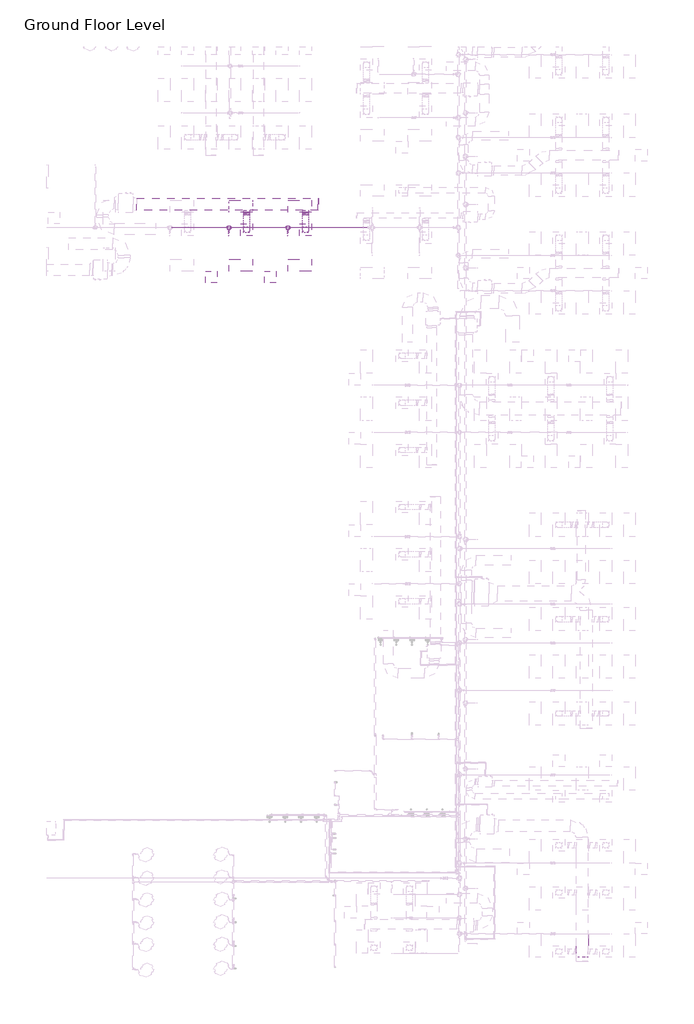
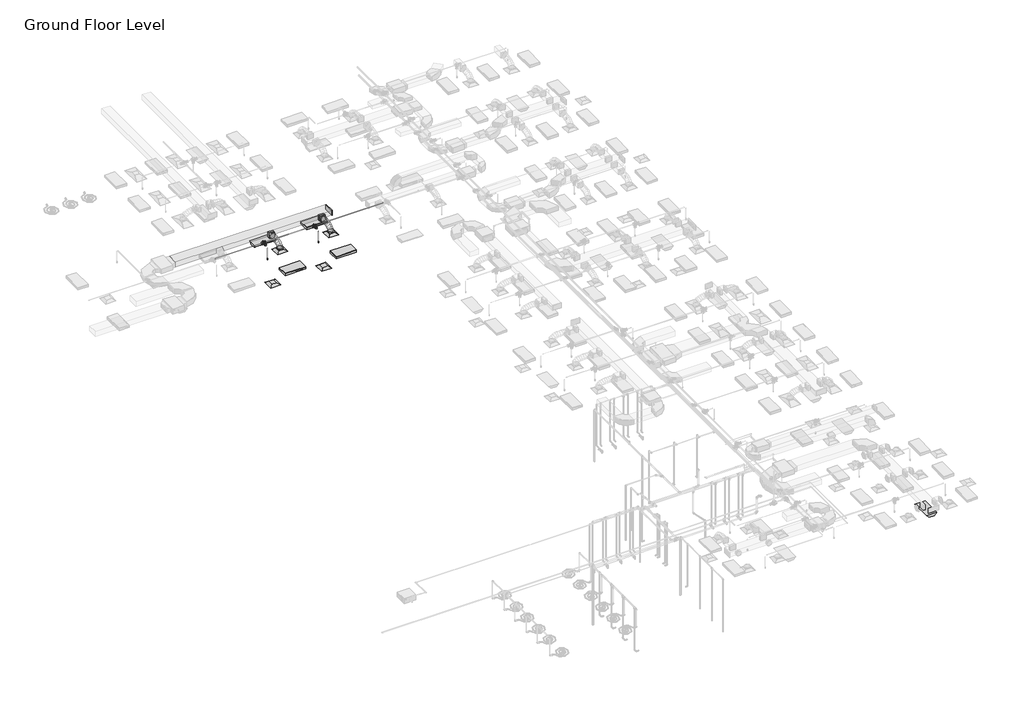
# One storey, part 12 of 66: 7 duct fittings, 7 pipe segments, 5 duct segments, 5 light fixtures, 4 air terminals, 4 pipe fittings, 2 fire suppression terminals.
"""IFC4 building model written with IfcOpenShell, lengths in millimetres."""

from ifc_helpers import new_model, si_unit, point, frame, frame_2d, origin, place, context, project, spatial, polyline, circle_curve, ellipse_curve, trimmed, segment, composite_curve, outline, extrude, transform, mapped, element, save
from ifc_brep_helpers import plane_surface, cylinder_surface, advanced_brep
from components import m_return_diffuser_600_x_600_face_300_x_300_connection_ff221211, m_rectangular_endcap_standard_0f0ff112, m_rectangular_takeoff_standard_2be5eba1, m_rectangular_to_round_transition_angle_45_degree_641efff0, m_sprinkler_dry_pendent_hosted_15_mm_dry_pendent_9bda8e11, m_emergency_recessed_lighting_fixture_600x1200_277_5b10b25d, m_troffer_light_parabolic_rectangular1_0600x1200mm_4_lamp_86473d4a, m_reducer_flanged_cs_class_150_standard_678fb8eb, m_tee_round_base_flanged_cs_class_150_standard_9c9133d0

model = new_model("IFC4")

# Units and contexts
model_context = context("Model", 3, world=origin())
ifc_project = project(units=[si_unit("LENGTHUNIT", "METRE", prefix="MILLI")], contexts=[model_context])

# Site, building, storey
site = spatial("IfcSite", under=ifc_project)
building = spatial("IfcBuilding", under=site)
storey = spatial("IfcBuildingStorey", under=building, Name="Ground Floor Level", Elevation=900.0)

# Air terminals
placement = place(None, origin())
m_return_diffuser_600_x_600_face_300_x_300_connection_shape = m_return_diffuser_600_x_600_face_300_x_300_connection_ff221211(model_context)
element("IfcAirTerminal", 1, ObjectType="M_Return Diffuser : 600 x 600 Face 300 x 300 Connection", at=placement, inside=storey, context=model_context, shape_type="MappedRepresentation", body=[
    mapped(m_return_diffuser_600_x_600_face_300_x_300_connection_shape, transform((-6937.2327605, -5464.7846466, 3650.0), x_axis=(1.0, 0.0, 0.0), y_axis=(0.0, 1.0, 0.0), z_axis=(0.0, 0.0, 1.0))),
])
element("IfcAirTerminal", 2, ObjectType="M_Return Diffuser : 600 x 600 Face 300 x 300 Connection", at=placement, inside=storey, context=model_context, shape_type="MappedRepresentation", body=[
    mapped(m_return_diffuser_600_x_600_face_300_x_300_connection_shape, transform((-3937.2327605, -5464.7846466, 3650.0), x_axis=(1.0, 0.0, 0.0), y_axis=(0.0, 1.0, 0.0), z_axis=(0.0, 0.0, 1.0))),
])
element("IfcAirTerminal", 3, ObjectType="M_Supply Diffuser : 600 x 600 Face 300 x 300 Connection", at=placement, inside=storey, context=model_context, shape_type="MappedRepresentation", body=[
    mapped(m_return_diffuser_600_x_600_face_300_x_300_connection_shape, transform((-5137.2327605, -3064.7846466, 3650.0), x_axis=(1.0, 0.0, 0.0), y_axis=(0.0, 1.0, 0.0), z_axis=(0.0, 0.0, 1.0))),
])
element("IfcAirTerminal", 4, ObjectType="M_Supply Diffuser : 600 x 600 Face 300 x 300 Connection", at=placement, inside=storey, context=model_context, shape_type="MappedRepresentation", body=[
    mapped(m_return_diffuser_600_x_600_face_300_x_300_connection_shape, transform((-2137.2327605, -3064.7846466, 3650.0), x_axis=(1.0, 0.0, 0.0), y_axis=(0.0, 1.0, 0.0), z_axis=(0.0, 0.0, 1.0))),
])

# Duct fittings
m_rectangular_endcap_standard_shape = m_rectangular_endcap_standard_0f0ff112(model_context)
element("IfcDuctFitting", 5, ObjectType="M_Rectangular Endcap : Standard", at=placement, inside=storey, context=model_context, shape_type="MappedRepresentation", body=[
    mapped(m_rectangular_endcap_standard_shape, transform((-1501.8327605, -1768.2846466, 4099.9873731), x_axis=(0.9999999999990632, 0.0, -1.368824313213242e-06), y_axis=(0.0, 1.0, 0.0), z_axis=(1.368824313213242e-06, 0.0, 0.9999999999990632))),
])
m_rectangular_takeoff_standard_shape = m_rectangular_takeoff_standard_2be5eba1(model_context)
element("IfcDuctFitting", 6, ObjectType="M_Rectangular Takeoff : Standard", at=placement, inside=storey, context=model_context, shape_type="MappedRepresentation", body=[
    mapped(m_rectangular_takeoff_standard_shape, transform((-2137.2327605, -2068.2846466, 4099.9882429), x_axis=(0.0, -1.0, 0.0), y_axis=(-1.0, 0.0, 0.0), z_axis=(0.0, 0.0, -1.0))),
])
element("IfcDuctFitting", 7, ObjectType="M_Rectangular Takeoff : Standard", at=placement, inside=storey, context=model_context, shape_type="MappedRepresentation", body=[
    mapped(m_rectangular_takeoff_standard_shape, transform((-5137.2327605, -2068.2846466, 4099.9923494), x_axis=(0.0, -1.0, 0.0), y_axis=(-1.0, 0.0, 0.0), z_axis=(0.0, 0.0, -1.0))),
])
m_rectangular_to_round_transition_angle_45_degree_shape = m_rectangular_to_round_transition_angle_45_degree_641efff0(model_context)
element("IfcDuctFitting", 8, ObjectType="M_Rectangular to Round Transition - Angle : 45 Degree", at=placement, inside=storey, context=model_context, shape_type="MappedRepresentation", body=[
    mapped(m_rectangular_to_round_transition_angle_45_degree_shape, transform((-2137.2327605, -3064.7846466, 3751.6), x_axis=(0.0, 0.0, 1.0), y_axis=(-1.0, 0.0, 0.0), z_axis=(0.0, -1.0, 0.0))),
])
element("IfcDuctFitting", 9, ObjectType="M_Rectangular to Round Transition - Angle : 45 Degree", at=placement, inside=storey, context=model_context, shape_type="MappedRepresentation", body=[
    mapped(m_rectangular_to_round_transition_angle_45_degree_shape, transform((-2137.2327605, -2237.4369582, 4099.9882429), x_axis=(0.0, -1.0, 0.0), y_axis=(1.0, 0.0, 0.0), z_axis=(0.0, 0.0, 1.0))),
])
element("IfcDuctFitting", 10, ObjectType="M_Rectangular to Round Transition - Angle : 45 Degree", at=placement, inside=storey, context=model_context, shape_type="MappedRepresentation", body=[
    mapped(m_rectangular_to_round_transition_angle_45_degree_shape, transform((-5137.2327605, -3064.7846466, 3751.6), x_axis=(0.0, 0.0, 1.0), y_axis=(-1.0, 0.0, 0.0), z_axis=(0.0, -1.0, 0.0))),
])
element("IfcDuctFitting", 11, ObjectType="M_Rectangular to Round Transition - Angle : 45 Degree", at=placement, inside=storey, context=model_context, shape_type="MappedRepresentation", body=[
    mapped(m_rectangular_to_round_transition_angle_45_degree_shape, transform((-5137.2327605, -2237.4410647, 4099.9923494), x_axis=(0.0, -1.0, 0.0), y_axis=(1.0, 0.0, 0.0), z_axis=(0.0, 0.0, 1.0))),
])

# Duct segments
element("IfcDuctSegment", 12, ObjectType="Flex - Round", at=placement, inside=storey, context=model_context, shape_type="AdvancedBrep", body=[
    advanced_brep(
    [(-1987.2327605, -3064.7846466, 3826.6), (-2137.2327605, -3214.7846466, 3826.6), (-2287.2327605, -3064.7846466, 3826.6), (-2137.2327605, -2914.7846466, 3826.6), (-1987.2327605, -3064.7846466, 3857.9382049), (-2137.2327605, -3214.7846466, 3883.5820304), (-2287.2327605, -3064.7846466, 3857.9382049), (-2137.2327605, -2914.7846466, 3832.2943795), (-1987.2327605, -3047.768388, 3906.2507872), (-2137.2327605, -3181.5056265, 3978.0678652), (-2287.2327605, -3047.768388, 3906.2507872), (-2137.2327605, -2914.0311496, 3834.4337093), (-1987.2327605, -3000.5836201, 3968.710775), (-2137.2327605, -3104.787507, 4079.622096), (-2287.2327605, -3000.5836201, 3968.710775), (-2137.2327605, -2896.3797333, 3857.7994541), (-1987.2327605, -2929.0263545, 4016.0680579), (-2137.2327605, -2997.957239, 4150.3233892), (-2287.2327605, -2929.0263545, 4016.0680579), (-2137.2327605, -2860.09547, 3881.8127266), (-1987.2327605, -2838.8926027, 4050.4107303), (-2137.2327605, -2882.4498996, 4194.3338808), (-2287.2327605, -2838.8926027, 4050.4107303), (-2137.2327605, -2795.3353058, 3906.4875799), (-1987.2327605, -2735.9783764, 4073.8268868), (-2137.2327605, -2762.5360145, 4221.6179832), (-2287.2327605, -2735.9783764, 4073.8268868), (-2137.2327605, -2709.4207382, 3926.0357904), (-1987.2327605, -2626.0796872, 4088.4046218), (-2137.2327605, -2641.2277335, 4237.7091667), (-2287.2327605, -2626.0796872, 4088.4046218), (-2137.2327605, -2610.9316408, 3939.1000769), (-1987.2327605, -2514.9925467, 4096.2320299), (-2137.2327605, -2522.4956529, 4246.0752516), (-2287.2327605, -2514.9925467, 4096.2320299), (-2137.2327605, -2507.4894404, 3946.3888082), (-1987.2327605, -2408.5129665, 4099.3972054), (-2137.2327605, -2411.2031539, 4249.3834943), (-2287.2327605, -2408.5129665, 4099.3972054), (-2137.2327605, -2405.822779, 3949.4109165), (-1987.2327605, -2312.4369582, 4099.9882429), (-2137.2327605, -2311.5142102, 3949.9910811), (-2287.2327605, -2312.4369582, 4099.9882429), (-2137.2327605, -2313.3597063, 4249.9854047)],
    [
        (0, 1, circle_curve(frame((-2137.2327605, -3064.7846466, 3826.6), z_axis=(0.0, 0.0, -1.0), x_axis=(1.0, 0.0, 0.0)), 150.0)),
        (1, 2, circle_curve(frame((-2137.2327605, -3064.7846466, 3826.6), z_axis=(0.0, 0.0, -1.0), x_axis=(1.0, 0.0, 0.0)), 150.0)),
        (2, 3, circle_curve(frame((-2137.2327605, -3064.7846466, 3826.6), z_axis=(0.0, 0.0, -1.0), x_axis=(1.0, 0.0, 0.0)), 150.0)),
        (3, 0, circle_curve(frame((-2137.2327605, -3064.7846466, 3826.6), z_axis=(0.0, 0.0, -1.0), x_axis=(1.0, 0.0, 0.0)), 150.0)),
        (0, 4),
        (4, 5, ellipse_curve(frame((-2137.2327605, -3064.7846466, 3857.9382049), z_axis=(0.0, -0.1685139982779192, -0.9856992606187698), x_axis=(0.0, 0.9856992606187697, -0.1685139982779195)), 152.1762326, 150.0)),
        (5, 1),
        (5, 6, ellipse_curve(frame((-2137.2327605, -3064.7846466, 3857.9382049), z_axis=(0.0, -0.1685139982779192, -0.9856992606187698), x_axis=(0.0, 0.9856992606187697, -0.1685139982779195)), 152.1762326, 150.0)),
        (6, 2),
        (6, 7, ellipse_curve(frame((-2137.2327605, -3064.7846466, 3857.9382049), z_axis=(0.0, -0.1685139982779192, -0.9856992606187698), x_axis=(0.0, 0.9856992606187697, -0.1685139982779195)), 152.1762326, 150.0)),
        (7, 3),
        (7, 4, ellipse_curve(frame((-2137.2327605, -3064.7846466, 3857.9382049), z_axis=(0.0, -0.1685139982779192, -0.9856992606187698), x_axis=(0.0, 0.9856992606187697, -0.1685139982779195)), 152.1762326, 150.0)),
        (4, 8),
        (8, 9, ellipse_curve(frame((-2137.2327605, -3047.768388, 3906.2507872), z_axis=(0.0, -0.4731022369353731, -0.8810075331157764), x_axis=(0.0, 0.8810075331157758, -0.47310223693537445)), 151.8003348, 150.0)),
        (9, 5),
        (9, 10, ellipse_curve(frame((-2137.2327605, -3047.768388, 3906.2507872), z_axis=(0.0, -0.4731022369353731, -0.8810075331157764), x_axis=(0.0, 0.8810075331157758, -0.47310223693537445)), 151.8003348, 150.0)),
        (10, 6),
        (10, 11, ellipse_curve(frame((-2137.2327605, -3047.768388, 3906.2507872), z_axis=(0.0, -0.4731022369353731, -0.8810075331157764), x_axis=(0.0, 0.8810075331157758, -0.47310223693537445)), 151.8003348, 150.0)),
        (11, 7),
        (11, 8, ellipse_curve(frame((-2137.2327605, -3047.768388, 3906.2507872), z_axis=(0.0, -0.4731022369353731, -0.8810075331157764), x_axis=(0.0, 0.8810075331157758, -0.47310223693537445)), 151.8003348, 150.0)),
        (8, 12),
        (12, 13, ellipse_curve(frame((-2137.2327605, -3000.5836201, 3968.710775), z_axis=(0.0, -0.728800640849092, -0.6847259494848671), x_axis=(0.0, 0.6847259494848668, -0.7288006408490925)), 152.1833472, 150.0)),
        (13, 9),
        (13, 14, ellipse_curve(frame((-2137.2327605, -3000.5836201, 3968.710775), z_axis=(0.0, -0.728800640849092, -0.6847259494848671), x_axis=(0.0, 0.6847259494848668, -0.7288006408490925)), 152.1833472, 150.0)),
        (14, 10),
        (14, 15, ellipse_curve(frame((-2137.2327605, -3000.5836201, 3968.710775), z_axis=(0.0, -0.728800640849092, -0.6847259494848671), x_axis=(0.0, 0.6847259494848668, -0.7288006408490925)), 152.1833472, 150.0)),
        (15, 11),
        (15, 12, ellipse_curve(frame((-2137.2327605, -3000.5836201, 3968.710775), z_axis=(0.0, -0.728800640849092, -0.6847259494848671), x_axis=(0.0, 0.6847259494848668, -0.7288006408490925)), 152.1833472, 150.0)),
        (12, 16),
        (16, 17, ellipse_curve(frame((-2137.2327605, -2929.0263545, 4016.0680579), z_axis=(0.0, -0.8895967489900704, -0.456746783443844), x_axis=(0.0, 0.45674678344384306, -0.8895967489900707)), 150.917066, 150.0)),
        (17, 13),
        (17, 18, ellipse_curve(frame((-2137.2327605, -2929.0263545, 4016.0680579), z_axis=(0.0, -0.8895967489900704, -0.456746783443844), x_axis=(0.0, 0.45674678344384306, -0.8895967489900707)), 150.917066, 150.0)),
        (18, 14),
        (18, 19, ellipse_curve(frame((-2137.2327605, -2929.0263545, 4016.0680579), z_axis=(0.0, -0.8895967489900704, -0.456746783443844), x_axis=(0.0, 0.45674678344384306, -0.8895967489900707)), 150.917066, 150.0)),
        (19, 15),
        (19, 16, ellipse_curve(frame((-2137.2327605, -2929.0263545, 4016.0680579), z_axis=(0.0, -0.8895967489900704, -0.456746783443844), x_axis=(0.0, 0.45674678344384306, -0.8895967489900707)), 150.917066, 150.0)),
        (16, 20),
        (20, 21, ellipse_curve(frame((-2137.2327605, -2838.8926027, 4050.4107303), z_axis=(0.0, -0.9571272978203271, -0.2896676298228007), x_axis=(0.0, 0.28966762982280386, -0.957127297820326)), 150.369915, 150.0)),
        (21, 17),
        (21, 22, ellipse_curve(frame((-2137.2327605, -2838.8926027, 4050.4107303), z_axis=(0.0, -0.9571272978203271, -0.2896676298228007), x_axis=(0.0, 0.28966762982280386, -0.957127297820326)), 150.369915, 150.0)),
        (22, 18),
        (22, 23, ellipse_curve(frame((-2137.2327605, -2838.8926027, 4050.4107303), z_axis=(0.0, -0.9571272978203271, -0.2896676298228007), x_axis=(0.0, 0.28966762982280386, -0.957127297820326)), 150.369915, 150.0)),
        (23, 19),
        (23, 20, ellipse_curve(frame((-2137.2327605, -2838.8926027, 4050.4107303), z_axis=(0.0, -0.9571272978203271, -0.2896676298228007), x_axis=(0.0, 0.28966762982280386, -0.957127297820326)), 150.369915, 150.0)),
        (20, 24),
        (24, 25, ellipse_curve(frame((-2137.2327605, -2735.9783764, 4073.8268868), z_axis=(0.0, -0.9842352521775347, -0.1768642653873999), x_axis=(0.0, 0.1768642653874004, -0.9842352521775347)), 150.1583042, 150.0)),
        (25, 21),
        (25, 26, ellipse_curve(frame((-2137.2327605, -2735.9783764, 4073.8268868), z_axis=(0.0, -0.9842352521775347, -0.1768642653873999), x_axis=(0.0, 0.1768642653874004, -0.9842352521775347)), 150.1583042, 150.0)),
        (26, 22),
        (26, 27, ellipse_curve(frame((-2137.2327605, -2735.9783764, 4073.8268868), z_axis=(0.0, -0.9842352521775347, -0.1768642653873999), x_axis=(0.0, 0.1768642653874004, -0.9842352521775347)), 150.1583042, 150.0)),
        (27, 23),
        (27, 24, ellipse_curve(frame((-2137.2327605, -2735.9783764, 4073.8268868), z_axis=(0.0, -0.9842352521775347, -0.1768642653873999), x_axis=(0.0, 0.1768642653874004, -0.9842352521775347)), 150.1583042, 150.0)),
        (24, 28),
        (28, 29, ellipse_curve(frame((-2137.2327605, -2626.0796872, 4088.4046218), z_axis=(0.0, -0.9948925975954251, -0.10093918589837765), x_axis=(0.0, 0.10093918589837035, -0.9948925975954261)), 150.071018, 150.0)),
        (29, 25),
        (29, 30, ellipse_curve(frame((-2137.2327605, -2626.0796872, 4088.4046218), z_axis=(0.0, -0.9948925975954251, -0.10093918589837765), x_axis=(0.0, 0.10093918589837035, -0.9948925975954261)), 150.071018, 150.0)),
        (30, 26),
        (30, 31, ellipse_curve(frame((-2137.2327605, -2626.0796872, 4088.4046218), z_axis=(0.0, -0.9948925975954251, -0.10093918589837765), x_axis=(0.0, 0.10093918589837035, -0.9948925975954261)), 150.071018, 150.0)),
        (31, 27),
        (31, 28, ellipse_curve(frame((-2137.2327605, -2626.0796872, 4088.4046218), z_axis=(0.0, -0.9948925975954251, -0.10093918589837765), x_axis=(0.0, 0.10093918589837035, -0.9948925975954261)), 150.071018, 150.0)),
        (28, 32),
        (32, 33, ellipse_curve(frame((-2137.2327605, -2514.9925467, 4096.2320299), z_axis=(0.0, -0.9987486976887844, -0.050010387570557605), x_axis=(0.0, 0.05001038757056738, -0.9987486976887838)), 150.0309558, 150.0)),
        (33, 29),
        (33, 34, ellipse_curve(frame((-2137.2327605, -2514.9925467, 4096.2320299), z_axis=(0.0, -0.9987486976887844, -0.050010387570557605), x_axis=(0.0, 0.05001038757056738, -0.9987486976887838)), 150.0309558, 150.0)),
        (34, 30),
        (34, 35, ellipse_curve(frame((-2137.2327605, -2514.9925467, 4096.2320299), z_axis=(0.0, -0.9987486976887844, -0.050010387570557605), x_axis=(0.0, 0.05001038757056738, -0.9987486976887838)), 150.0309558, 150.0)),
        (35, 31),
        (35, 32, ellipse_curve(frame((-2137.2327605, -2514.9925467, 4096.2320299), z_axis=(0.0, -0.9987486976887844, -0.050010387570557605), x_axis=(0.0, 0.05001038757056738, -0.9987486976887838)), 150.0309558, 150.0)),
        (32, 36),
        (36, 37, ellipse_curve(frame((-2137.2327605, -2408.5129665, 4099.3972054), z_axis=(0.0, -0.9998391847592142, -0.017933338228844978), x_axis=(0.0, 0.017933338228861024, -0.9998391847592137)), 150.0104128, 150.0)),
        (37, 33),
        (37, 38, ellipse_curve(frame((-2137.2327605, -2408.5129665, 4099.3972054), z_axis=(0.0, -0.9998391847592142, -0.017933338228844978), x_axis=(0.0, 0.017933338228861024, -0.9998391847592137)), 150.0104128, 150.0)),
        (38, 34),
        (38, 39, ellipse_curve(frame((-2137.2327605, -2408.5129665, 4099.3972054), z_axis=(0.0, -0.9998391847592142, -0.017933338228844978), x_axis=(0.0, 0.017933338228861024, -0.9998391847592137)), 150.0104128, 150.0)),
        (39, 35),
        (39, 36, ellipse_curve(frame((-2137.2327605, -2408.5129665, 4099.3972054), z_axis=(0.0, -0.9998391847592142, -0.017933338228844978), x_axis=(0.0, 0.017933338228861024, -0.9998391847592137)), 150.0104128, 150.0)),
        (40, 41, circle_curve(frame((-2137.2327605, -2312.4369582, 4099.9882429), z_axis=(0.0, 0.9999810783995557, 0.006151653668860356), x_axis=(1.0, 0.0, 0.0)), 150.0)),
        (41, 42, circle_curve(frame((-2137.2327605, -2312.4369582, 4099.9882429), z_axis=(0.0, 0.9999810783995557, 0.006151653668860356), x_axis=(1.0, 0.0, 0.0)), 150.0)),
        (42, 43, circle_curve(frame((-2137.2327605, -2312.4369582, 4099.9882429), z_axis=(0.0, 0.9999810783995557, 0.006151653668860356), x_axis=(1.0, 0.0, 0.0)), 150.0)),
        (43, 40, circle_curve(frame((-2137.2327605, -2312.4369582, 4099.9882429), z_axis=(0.0, 0.9999810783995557, 0.006151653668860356), x_axis=(1.0, 0.0, 0.0)), 150.0)),
        (36, 40),
        (43, 37),
        (42, 38),
        (41, 39),
    ],
    [
        plane_surface(frame((-2137.2327605, -3214.7846466, 3826.6), z_axis=(0.0, 0.0, -1.0), x_axis=(1.0, 0.0, 0.0))),
        cylinder_surface(frame((-2137.2327605, -3064.7846466, 3826.6), z_axis=(0.0, 0.0, -1.0), x_axis=(1.0, 0.0, 0.0)), 150.0),
        cylinder_surface(frame((-2137.2327605, -3064.7846466, 3857.9382049), z_axis=(0.0, -0.33220824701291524, -0.9432060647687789), x_axis=(1.0, 0.0, 0.0)), 150.0),
        cylinder_surface(frame((-2137.2327605, -3047.768388, 3906.2507872), z_axis=(0.0, -0.6027743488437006, -0.7979117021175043), x_axis=(1.0, 0.0, 0.0)), 150.0),
        cylinder_surface(frame((-2137.2327605, -3000.5836201, 3968.710775), z_axis=(0.0, -0.83391498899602, -0.5518929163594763), x_axis=(1.0, 0.0, 0.0)), 150.0),
        cylinder_surface(frame((-2137.2327605, -2929.0263545, 4016.0680579), z_axis=(0.0, -0.9344670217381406, -0.3560496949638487), x_axis=(1.0, 0.0, 0.0)), 150.0),
        cylinder_surface(frame((-2137.2327605, -2838.8926027, 4050.4107303), z_axis=(0.0, -0.9750784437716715, -0.2218603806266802), x_axis=(1.0, 0.0, 0.0)), 150.0),
        cylinder_surface(frame((-2137.2327605, -2735.9783764, 4073.8268868), z_axis=(0.0, -0.9913168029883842, -0.13149523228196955), x_axis=(1.0, 0.0, 0.0)), 150.0),
        cylinder_surface(frame((-2137.2327605, -2626.0796872, 4088.4046218), z_axis=(0.0, -0.9975267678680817, -0.07028760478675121), x_axis=(1.0, 0.0, 0.0)), 150.0),
        cylinder_surface(frame((-2137.2327605, -2514.9925467, 4096.2320299), z_axis=(0.0, -0.9995584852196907, -0.02971253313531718), x_axis=(1.0, 0.0, 0.0)), 150.0),
        plane_surface(frame((-2137.2327605, -2313.3597063, 4249.9854047), z_axis=(0.0, 0.9999810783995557, 0.006151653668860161), x_axis=(1.0, 0.0, 0.0))),
        cylinder_surface(frame((-2137.2327605, -2408.5129665, 4099.3972054), z_axis=(0.0, -0.9999810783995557, -0.006151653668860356), x_axis=(1.0, 0.0, 0.0)), 150.0),
    ],
    [
        (0, [[1, 2, 3, 4]]),
        (1, [[-1, 5, 6, 7]]),
        (1, [[-2, -7, 8, 9]]),
        (1, [[-3, -9, 10, 11]]),
        (1, [[-4, -11, 12, -5]]),
        (2, [[-6, 13, 14, 15]]),
        (2, [[-8, -15, 16, 17]]),
        (2, [[-10, -17, 18, 19]]),
        (2, [[-12, -19, 20, -13]]),
        (3, [[-14, 21, 22, 23]]),
        (3, [[-16, -23, 24, 25]]),
        (3, [[-18, -25, 26, 27]]),
        (3, [[-20, -27, 28, -21]]),
        (4, [[-22, 29, 30, 31]]),
        (4, [[-24, -31, 32, 33]]),
        (4, [[-26, -33, 34, 35]]),
        (4, [[-28, -35, 36, -29]]),
        (5, [[-30, 37, 38, 39]]),
        (5, [[-32, -39, 40, 41]]),
        (5, [[-34, -41, 42, 43]]),
        (5, [[-36, -43, 44, -37]]),
        (6, [[-38, 45, 46, 47]]),
        (6, [[-40, -47, 48, 49]]),
        (6, [[-42, -49, 50, 51]]),
        (6, [[-44, -51, 52, -45]]),
        (7, [[-46, 53, 54, 55]]),
        (7, [[-48, -55, 56, 57]]),
        (7, [[-50, -57, 58, 59]]),
        (7, [[-52, -59, 60, -53]]),
        (8, [[-54, 61, 62, 63]]),
        (8, [[-56, -63, 64, 65]]),
        (8, [[-58, -65, 66, 67]]),
        (8, [[-60, -67, 68, -61]]),
        (9, [[-62, 69, 70, 71]]),
        (9, [[-64, -71, 72, 73]]),
        (9, [[-66, -73, 74, 75]]),
        (9, [[-68, -75, 76, -69]]),
        (10, [[77, 78, 79, 80]]),
        (11, [[-70, 81, -80, 82]]),
        (11, [[-72, -82, -79, 83]]),
        (11, [[-74, -83, -78, 84]]),
        (11, [[-76, -84, -77, -81]]),
    ],
),
])
element("IfcDuctSegment", 13, ObjectType="Flex - Round", at=placement, inside=storey, context=model_context, shape_type="AdvancedBrep", body=[
    advanced_brep(
    [(-4987.2327605, -3064.7846466, 3826.6), (-5137.2327605, -3214.7846466, 3826.6), (-5287.2327605, -3064.7846466, 3826.6), (-5137.2327605, -2914.7846466, 3826.6), (-4987.2327605, -3064.7846466, 3857.9380326), (-5137.2327605, -3214.7846466, 3883.5816473), (-5287.2327605, -3064.7846466, 3857.9380326), (-5137.2327605, -2914.7846466, 3832.2944178), (-4987.2327605, -3047.7685019, 3906.2507123), (-5137.2327605, -3181.505999, 3978.0672475), (-5287.2327605, -3047.7685019, 3906.2507123), (-5137.2327605, -2914.0310048, 3834.4341772), (-4987.2327605, -3000.584044, 3968.710963), (-5137.2327605, -3104.7886338, 4079.6215744), (-5287.2327605, -3000.584044, 3968.710963), (-5137.2327605, -2896.3794543, 3857.8003516), (-4987.2327605, -2929.0272371, 4016.0687585), (-5137.2327605, -2997.9592292, 4150.3235149), (-5287.2327605, -2929.0272371, 4016.0687585), (-5137.2327605, -2860.095245, 3881.8140022), (-4987.2327605, -2838.8940455, 4050.4121057), (-5137.2327605, -2882.4525531, 4194.3348919), (-5287.2327605, -2838.8940455, 4050.4121057), (-5137.2327605, -2795.3355379, 3906.4893195), (-4987.2327605, -2735.9804334, 4073.8290112), (-5137.2327605, -2762.5392192, 4221.6199045), (-5287.2327605, -2735.9804334, 4073.8290112), (-5137.2327605, -2709.4216475, 3926.0381179), (-4987.2327605, -2626.082365, 4088.4074817), (-5137.2327605, -2641.2314089, 4237.7119283), (-5287.2327605, -2626.082365, 4088.4074817), (-5137.2327605, -2610.9333211, 3939.103035), (-4987.2327605, -2514.9958046, 4096.2355237), (-5137.2327605, -2522.4996869, 4246.0787092), (-5287.2327605, -2514.9958046, 4096.2355237), (-5137.2327605, -2507.4919223, 3946.3923382), (-4987.2327605, -2408.5167164, 4099.4011441), (-5137.2327605, -2411.2073599, 4249.387427), (-5287.2327605, -2408.5167164, 4099.4011441), (-5137.2327605, -2405.8260729, 3949.4148611), (-4987.2327605, -2312.4410647, 4099.9923494), (-5137.2327605, -2311.5180513, 3949.9951892), (-5287.2327605, -2312.4410647, 4099.9923494), (-5137.2327605, -2313.3640781, 4249.9895095)],
    [
        (0, 1, circle_curve(frame((-5137.2327605, -3064.7846466, 3826.6), z_axis=(0.0, 0.0, -1.0), x_axis=(1.0, 0.0, 0.0)), 150.0)),
        (1, 2, circle_curve(frame((-5137.2327605, -3064.7846466, 3826.6), z_axis=(0.0, 0.0, -1.0), x_axis=(1.0, 0.0, 0.0)), 150.0)),
        (2, 3, circle_curve(frame((-5137.2327605, -3064.7846466, 3826.6), z_axis=(0.0, 0.0, -1.0), x_axis=(1.0, 0.0, 0.0)), 150.0)),
        (3, 0, circle_curve(frame((-5137.2327605, -3064.7846466, 3826.6), z_axis=(0.0, 0.0, -1.0), x_axis=(1.0, 0.0, 0.0)), 150.0)),
        (0, 4),
        (4, 5, ellipse_curve(frame((-5137.2327605, -3064.7846466, 3857.9380326), z_axis=(0.0, -0.16851265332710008, -0.9856994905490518), x_axis=(0.0, 0.9856994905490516, -0.16851265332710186)), 152.1761971, 150.0)),
        (5, 1),
        (5, 6, ellipse_curve(frame((-5137.2327605, -3064.7846466, 3857.9380326), z_axis=(0.0, -0.16851265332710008, -0.9856994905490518), x_axis=(0.0, 0.9856994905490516, -0.16851265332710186)), 152.1761971, 150.0)),
        (6, 2),
        (6, 7, ellipse_curve(frame((-5137.2327605, -3064.7846466, 3857.9380326), z_axis=(0.0, -0.16851265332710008, -0.9856994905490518), x_axis=(0.0, 0.9856994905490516, -0.16851265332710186)), 152.1761971, 150.0)),
        (7, 3),
        (7, 4, ellipse_curve(frame((-5137.2327605, -3064.7846466, 3857.9380326), z_axis=(0.0, -0.16851265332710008, -0.9856994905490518), x_axis=(0.0, 0.9856994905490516, -0.16851265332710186)), 152.1761971, 150.0)),
        (4, 8),
        (8, 9, ellipse_curve(frame((-5137.2327605, -3047.7685019, 3906.2507123), z_axis=(0.0, -0.47309875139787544, -0.881009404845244), x_axis=(0.0, 0.8810094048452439, -0.47309875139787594)), 151.8003058, 150.0)),
        (9, 5),
        (9, 10, ellipse_curve(frame((-5137.2327605, -3047.7685019, 3906.2507123), z_axis=(0.0, -0.47309875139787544, -0.881009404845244), x_axis=(0.0, 0.8810094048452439, -0.47309875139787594)), 151.8003058, 150.0)),
        (10, 6),
        (10, 11, ellipse_curve(frame((-5137.2327605, -3047.7685019, 3906.2507123), z_axis=(0.0, -0.47309875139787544, -0.881009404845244), x_axis=(0.0, 0.8810094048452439, -0.47309875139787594)), 151.8003058, 150.0)),
        (11, 7),
        (11, 8, ellipse_curve(frame((-5137.2327605, -3047.7685019, 3906.2507123), z_axis=(0.0, -0.47309875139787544, -0.881009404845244), x_axis=(0.0, 0.8810094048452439, -0.47309875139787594)), 151.8003058, 150.0)),
        (8, 12),
        (12, 13, ellipse_curve(frame((-5137.2327605, -3000.584044, 3968.710963), z_axis=(0.0, -0.7287961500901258, -0.6847307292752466), x_axis=(0.0, 0.6847307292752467, -0.7287961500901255)), 152.1833113, 150.0)),
        (13, 9),
        (13, 14, ellipse_curve(frame((-5137.2327605, -3000.584044, 3968.710963), z_axis=(0.0, -0.7287961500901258, -0.6847307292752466), x_axis=(0.0, 0.6847307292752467, -0.7287961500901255)), 152.1833113, 150.0)),
        (14, 10),
        (14, 15, ellipse_curve(frame((-5137.2327605, -3000.584044, 3968.710963), z_axis=(0.0, -0.7287961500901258, -0.6847307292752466), x_axis=(0.0, 0.6847307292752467, -0.7287961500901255)), 152.1833113, 150.0)),
        (15, 11),
        (15, 12, ellipse_curve(frame((-5137.2327605, -3000.584044, 3968.710963), z_axis=(0.0, -0.7287961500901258, -0.6847307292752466), x_axis=(0.0, 0.6847307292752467, -0.7287961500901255)), 152.1833113, 150.0)),
        (12, 16),
        (16, 17, ellipse_curve(frame((-5137.2327605, -2929.0272371, 4016.0687585), z_axis=(0.0, -0.8895929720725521, -0.4567541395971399), x_axis=(0.0, 0.45675413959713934, -0.8895929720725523)), 150.9170604, 150.0)),
        (17, 13),
        (17, 18, ellipse_curve(frame((-5137.2327605, -2929.0272371, 4016.0687585), z_axis=(0.0, -0.8895929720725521, -0.4567541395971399), x_axis=(0.0, 0.45675413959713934, -0.8895929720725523)), 150.9170604, 150.0)),
        (18, 14),
        (18, 19, ellipse_curve(frame((-5137.2327605, -2929.0272371, 4016.0687585), z_axis=(0.0, -0.8895929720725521, -0.4567541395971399), x_axis=(0.0, 0.45675413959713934, -0.8895929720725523)), 150.9170604, 150.0)),
        (19, 15),
        (19, 16, ellipse_curve(frame((-5137.2327605, -2929.0272371, 4016.0687585), z_axis=(0.0, -0.8895929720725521, -0.4567541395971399), x_axis=(0.0, 0.45675413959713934, -0.8895929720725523)), 150.9170604, 150.0)),
        (16, 20),
        (20, 21, ellipse_curve(frame((-5137.2327605, -2838.8940455, 4050.4121057), z_axis=(0.0, -0.9571248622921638, -0.2896756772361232), x_axis=(0.0, 0.28967567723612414, -0.9571248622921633)), 150.3699171, 150.0)),
        (21, 17),
        (21, 22, ellipse_curve(frame((-5137.2327605, -2838.8940455, 4050.4121057), z_axis=(0.0, -0.9571248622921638, -0.2896756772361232), x_axis=(0.0, 0.28967567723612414, -0.9571248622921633)), 150.3699171, 150.0)),
        (22, 18),
        (22, 23, ellipse_curve(frame((-5137.2327605, -2838.8940455, 4050.4121057), z_axis=(0.0, -0.9571248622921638, -0.2896756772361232), x_axis=(0.0, 0.28967567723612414, -0.9571248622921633)), 150.3699171, 150.0)),
        (23, 19),
        (23, 20, ellipse_curve(frame((-5137.2327605, -2838.8940455, 4050.4121057), z_axis=(0.0, -0.9571248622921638, -0.2896756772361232), x_axis=(0.0, 0.28967567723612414, -0.9571248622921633)), 150.3699171, 150.0)),
        (20, 24),
        (24, 25, ellipse_curve(frame((-5137.2327605, -2735.9804334, 4073.8290112), z_axis=(0.0, -0.984233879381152, -0.17687190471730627), x_axis=(0.0, 0.17687190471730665, -0.984233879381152)), 150.1583073, 150.0)),
        (25, 21),
        (25, 26, ellipse_curve(frame((-5137.2327605, -2735.9804334, 4073.8290112), z_axis=(0.0, -0.984233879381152, -0.17687190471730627), x_axis=(0.0, 0.17687190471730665, -0.984233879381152)), 150.1583073, 150.0)),
        (26, 22),
        (26, 27, ellipse_curve(frame((-5137.2327605, -2735.9804334, 4073.8290112), z_axis=(0.0, -0.984233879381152, -0.17687190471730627), x_axis=(0.0, 0.17687190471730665, -0.984233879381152)), 150.1583073, 150.0)),
        (27, 23),
        (27, 24, ellipse_curve(frame((-5137.2327605, -2735.9804334, 4073.8290112), z_axis=(0.0, -0.984233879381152, -0.17687190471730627), x_axis=(0.0, 0.17687190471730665, -0.984233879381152)), 150.1583073, 150.0)),
        (24, 28),
        (28, 29, ellipse_curve(frame((-5137.2327605, -2626.082365, 4088.4074817), z_axis=(0.0, -0.9948919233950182, -0.1009458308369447), x_axis=(0.0, 0.10094583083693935, -0.9948919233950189)), 150.0710209, 150.0)),
        (29, 25),
        (29, 30, ellipse_curve(frame((-5137.2327605, -2626.082365, 4088.4074817), z_axis=(0.0, -0.9948919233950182, -0.1009458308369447), x_axis=(0.0, 0.10094583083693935, -0.9948919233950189)), 150.0710209, 150.0)),
        (30, 26),
        (30, 31, ellipse_curve(frame((-5137.2327605, -2626.082365, 4088.4074817), z_axis=(0.0, -0.9948919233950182, -0.1009458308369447), x_axis=(0.0, 0.10094583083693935, -0.9948919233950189)), 150.0710209, 150.0)),
        (31, 27),
        (31, 28, ellipse_curve(frame((-5137.2327605, -2626.082365, 4088.4074817), z_axis=(0.0, -0.9948919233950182, -0.1009458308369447), x_axis=(0.0, 0.10094583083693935, -0.9948919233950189)), 150.0710209, 150.0)),
        (28, 32),
        (32, 33, ellipse_curve(frame((-5137.2327605, -2514.9958046, 4096.2355237), z_axis=(0.0, -0.9987484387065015, -0.05001555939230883), x_axis=(0.0, 0.05001555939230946, -0.9987484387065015)), 150.0309584, 150.0)),
        (33, 29),
        (33, 34, ellipse_curve(frame((-5137.2327605, -2514.9958046, 4096.2355237), z_axis=(0.0, -0.9987484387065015, -0.05001555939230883), x_axis=(0.0, 0.05001555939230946, -0.9987484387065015)), 150.0309584, 150.0)),
        (34, 30),
        (34, 35, ellipse_curve(frame((-5137.2327605, -2514.9958046, 4096.2355237), z_axis=(0.0, -0.9987484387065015, -0.05001555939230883), x_axis=(0.0, 0.05001555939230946, -0.9987484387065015)), 150.0309584, 150.0)),
        (35, 31),
        (35, 32, ellipse_curve(frame((-5137.2327605, -2514.9958046, 4096.2355237), z_axis=(0.0, -0.9987484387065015, -0.05001555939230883), x_axis=(0.0, 0.05001555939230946, -0.9987484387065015)), 150.0309584, 150.0)),
        (32, 36),
        (36, 37, ellipse_curve(frame((-5137.2327605, -2408.5167164, 4099.4011441), z_axis=(0.0, -0.9998391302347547, -0.01793637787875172), x_axis=(0.0, 0.017936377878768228, -0.9998391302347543)), 150.0104151, 150.0)),
        (37, 33),
        (37, 38, ellipse_curve(frame((-5137.2327605, -2408.5167164, 4099.4011441), z_axis=(0.0, -0.9998391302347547, -0.01793637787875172), x_axis=(0.0, 0.017936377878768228, -0.9998391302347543)), 150.0104151, 150.0)),
        (38, 34),
        (38, 39, ellipse_curve(frame((-5137.2327605, -2408.5167164, 4099.4011441), z_axis=(0.0, -0.9998391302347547, -0.01793637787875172), x_axis=(0.0, 0.017936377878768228, -0.9998391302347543)), 150.0104151, 150.0)),
        (39, 35),
        (39, 36, ellipse_curve(frame((-5137.2327605, -2408.5167164, 4099.4011441), z_axis=(0.0, -0.9998391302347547, -0.01793637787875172), x_axis=(0.0, 0.017936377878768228, -0.9998391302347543)), 150.0104151, 150.0)),
        (40, 41, circle_curve(frame((-5137.2327605, -2312.4410647, 4099.9923494), z_axis=(0.0, 0.9999810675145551, 0.0061534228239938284), x_axis=(1.0, 0.0, 0.0)), 150.0)),
        (41, 42, circle_curve(frame((-5137.2327605, -2312.4410647, 4099.9923494), z_axis=(0.0, 0.9999810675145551, 0.0061534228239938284), x_axis=(1.0, 0.0, 0.0)), 150.0)),
        (42, 43, circle_curve(frame((-5137.2327605, -2312.4410647, 4099.9923494), z_axis=(0.0, 0.9999810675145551, 0.0061534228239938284), x_axis=(1.0, 0.0, 0.0)), 150.0)),
        (43, 40, circle_curve(frame((-5137.2327605, -2312.4410647, 4099.9923494), z_axis=(0.0, 0.9999810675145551, 0.0061534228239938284), x_axis=(1.0, 0.0, 0.0)), 150.0)),
        (36, 40),
        (43, 37),
        (42, 38),
        (41, 39),
    ],
    [
        plane_surface(frame((-5137.2327605, -3214.7846466, 3826.6), z_axis=(0.0, 0.0, -1.0), x_axis=(1.0, 0.0, 0.0))),
        cylinder_surface(frame((-5137.2327605, -3064.7846466, 3826.6), z_axis=(0.0, 0.0, -1.0), x_axis=(1.0, 0.0, 0.0)), 150.0),
        cylinder_surface(frame((-5137.2327605, -3064.7846466, 3857.9380326), z_axis=(0.0, -0.33220567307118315, -0.9432069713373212), x_axis=(1.0, 0.0, 0.0)), 150.0),
        cylinder_surface(frame((-5137.2327605, -3047.7685019, 3906.2507123), z_axis=(0.0, -0.6027702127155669, -0.797914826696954), x_axis=(1.0, 0.0, 0.0)), 150.0),
        cylinder_surface(frame((-5137.2327605, -3000.584044, 3968.710963), z_axis=(0.0, -0.8339106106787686, -0.5518995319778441), x_axis=(1.0, 0.0, 0.0)), 150.0),
        cylinder_surface(frame((-5137.2327605, -2929.0272371, 4016.0687585), z_axis=(0.0, -0.9344639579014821, -0.3560577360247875), x_axis=(1.0, 0.0, 0.0)), 150.0),
        cylinder_surface(frame((-5137.2327605, -2838.8940455, 4050.4121057), z_axis=(0.0, -0.9750766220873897, -0.22186838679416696), x_axis=(1.0, 0.0, 0.0)), 150.0),
        cylinder_surface(frame((-5137.2327605, -2735.9804334, 4073.8290112), z_axis=(0.0, -0.9913158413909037, -0.13150248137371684), x_axis=(1.0, 0.0, 0.0)), 150.0),
        cylinder_surface(frame((-5137.2327605, -2626.082365, 4088.4074817), z_axis=(0.0, -0.9975263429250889, -0.07029363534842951), x_axis=(1.0, 0.0, 0.0)), 150.0),
        cylinder_surface(frame((-5137.2327605, -2514.9958046, 4096.2355237), z_axis=(0.0, -0.9995583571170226, -0.029716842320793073), x_axis=(1.0, 0.0, 0.0)), 150.0),
        plane_surface(frame((-5137.2327605, -2313.3640781, 4249.9895095), z_axis=(0.0, 0.9999810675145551, 0.006153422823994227), x_axis=(1.0, 0.0, 0.0))),
        cylinder_surface(frame((-5137.2327605, -2408.5167164, 4099.4011441), z_axis=(0.0, -0.9999810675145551, -0.0061534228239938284), x_axis=(1.0, 0.0, 0.0)), 150.0),
    ],
    [
        (0, [[1, 2, 3, 4]]),
        (1, [[-1, 5, 6, 7]]),
        (1, [[-2, -7, 8, 9]]),
        (1, [[-3, -9, 10, 11]]),
        (1, [[-4, -11, 12, -5]]),
        (2, [[-6, 13, 14, 15]]),
        (2, [[-8, -15, 16, 17]]),
        (2, [[-10, -17, 18, 19]]),
        (2, [[-12, -19, 20, -13]]),
        (3, [[-14, 21, 22, 23]]),
        (3, [[-16, -23, 24, 25]]),
        (3, [[-18, -25, 26, 27]]),
        (3, [[-20, -27, 28, -21]]),
        (4, [[-22, 29, 30, 31]]),
        (4, [[-24, -31, 32, 33]]),
        (4, [[-26, -33, 34, 35]]),
        (4, [[-28, -35, 36, -29]]),
        (5, [[-30, 37, 38, 39]]),
        (5, [[-32, -39, 40, 41]]),
        (5, [[-34, -41, 42, 43]]),
        (5, [[-36, -43, 44, -37]]),
        (6, [[-38, 45, 46, 47]]),
        (6, [[-40, -47, 48, 49]]),
        (6, [[-42, -49, 50, 51]]),
        (6, [[-44, -51, 52, -45]]),
        (7, [[-46, 53, 54, 55]]),
        (7, [[-48, -55, 56, 57]]),
        (7, [[-50, -57, 58, 59]]),
        (7, [[-52, -59, 60, -53]]),
        (8, [[-54, 61, 62, 63]]),
        (8, [[-56, -63, 64, 65]]),
        (8, [[-58, -65, 66, 67]]),
        (8, [[-60, -67, 68, -61]]),
        (9, [[-62, 69, 70, 71]]),
        (9, [[-64, -71, 72, 73]]),
        (9, [[-66, -73, 74, 75]]),
        (9, [[-68, -75, 76, -69]]),
        (10, [[77, 78, 79, 80]]),
        (11, [[-70, 81, -80, 82]]),
        (11, [[-72, -82, -79, 83]]),
        (11, [[-74, -83, -78, 84]]),
        (11, [[-76, -84, -77, -81]]),
    ],
),
])
element("IfcDuctSegment", 14, ObjectType="Radius Elbows / Taps", at=placement, inside=storey, context=model_context, shape_type="SweptSolid", body=[
    extrude(outline(polyline([(0.0, -600.0), (0.0, 0.0), (9224.5995898, 0.0), (9224.5995898, -600.0), (0.0, -600.0)])), frame((-10726.4325556, -1468.2846466, 3950.0), z_axis=(1.3688243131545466e-06, 0.0, 0.9999999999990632), x_axis=(0.9999999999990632, 0.0, -1.3688243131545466e-06)), (0.0, 0.0, 1.0), 300.0),
])
element("IfcDuctSegment", 15, ObjectType="Radius Elbows / Taps", at=placement, inside=storey, context=model_context, shape_type="SweptSolid", body=[
    extrude(outline(polyline([(-2287.2327605, -2169.8846466), (-1987.2327605, -2169.8846466), (-1987.2327605, -2237.4369582), (-2287.2327605, -2237.4369582), (-2287.2327605, -2169.8846466)])), frame((0.0, 0.0, 3949.9882429), z_axis=(0.0, 0.0, 1.0), x_axis=(1.0, 0.0, 0.0)), (0.0, 0.0, 1.0), 300.0),
])
element("IfcDuctSegment", 16, ObjectType="Radius Elbows / Taps", at=placement, inside=storey, context=model_context, shape_type="SweptSolid", body=[
    extrude(outline(polyline([(-5287.2327605, -2169.8846466), (-4987.2327605, -2169.8846466), (-4987.2327605, -2237.4410647), (-5287.2327605, -2237.4410647), (-5287.2327605, -2169.8846466)])), frame((0.0, 0.0, 3949.9923494), z_axis=(0.0, 0.0, 1.0), x_axis=(1.0, 0.0, 0.0)), (0.0, 0.0, 1.0), 300.0),
])

# Fire suppression terminals
m_sprinkler_dry_pendent_hosted_15_mm_dry_pendent_shape = m_sprinkler_dry_pendent_hosted_15_mm_dry_pendent_9bda8e11(model_context)
element("IfcFireSuppressionTerminal", 17, ObjectType="M_Sprinkler - Dry - Pendent - Hosted : 15 mm Dry Pendent", at=placement, inside=storey, context=model_context, shape_type="MappedRepresentation", body=[
    mapped(m_sprinkler_dry_pendent_hosted_15_mm_dry_pendent_shape, transform((-6037.2327605, -3364.7846466, 3650.0), x_axis=(1.0, 0.0, 0.0), y_axis=(0.0, -1.0, 0.0), z_axis=(0.0, 0.0, -1.0))),
])
element("IfcFireSuppressionTerminal", 18, ObjectType="M_Sprinkler - Dry - Pendent - Hosted : 15 mm Dry Pendent", at=placement, inside=storey, context=model_context, shape_type="MappedRepresentation", body=[
    mapped(m_sprinkler_dry_pendent_hosted_15_mm_dry_pendent_shape, transform((-3037.2327605, -3364.7846466, 3650.0), x_axis=(1.0, 0.0, 0.0), y_axis=(0.0, -1.0, 0.0), z_axis=(0.0, 0.0, -1.0))),
])

# Light fixtures
m_emergency_recessed_lighting_fixture_600x1200_277_shape = m_emergency_recessed_lighting_fixture_600x1200_277_5b10b25d(model_context)
element("IfcLightFixture", 19, ObjectType="M_Emergency Recessed Lighting Fixture : 600x1200 - 277", at=placement, inside=storey, context=model_context, shape_type="MappedRepresentation", body=[
    mapped(m_emergency_recessed_lighting_fixture_600x1200_277_shape, transform((-6037.2327605, -1564.7846466, 3650.0), x_axis=(1.0, 0.0, 0.0), y_axis=(0.0, 1.0, 0.0), z_axis=(0.0, 0.0, 1.0))),
])
element("IfcLightFixture", 20, ObjectType="M_Emergency Recessed Lighting Fixture : 600x1200 - 277", at=placement, inside=storey, context=model_context, shape_type="MappedRepresentation", body=[
    mapped(m_emergency_recessed_lighting_fixture_600x1200_277_shape, transform((11643.0482736, -40064.7846466, 3650.0), x_axis=(0.0, 1.0, 0.0), y_axis=(-1.0, 0.0, 0.0), z_axis=(0.0, 0.0, 1.0))),
])
m_troffer_light_parabolic_rectangular1_0600x1200mm_4_lamp_shape = m_troffer_light_parabolic_rectangular1_0600x1200mm_4_lamp_86473d4a(model_context)
element("IfcLightFixture", 21, ObjectType="M_Troffer Light - Parabolic Rectangular1 : 0600x1200mm(4 Lamp) - 277V 2", at=placement, inside=storey, context=model_context, shape_type="MappedRepresentation", body=[
    mapped(m_troffer_light_parabolic_rectangular1_0600x1200mm_4_lamp_shape, transform((-2418.5292589, -1805.3187145, 3650.0), x_axis=(1.0, 0.0, 0.0), y_axis=(0.0, 1.0, 0.0), z_axis=(0.0, 0.0, 1.0))),
])
element("IfcLightFixture", 22, ObjectType="M_Troffer Light - Parabolic Rectangular1 : 0600x1200mm(4 Lamp) - 277V 2", at=placement, inside=storey, context=model_context, shape_type="MappedRepresentation", body=[
    mapped(m_troffer_light_parabolic_rectangular1_0600x1200mm_4_lamp_shape, transform((-2418.5292589, -4805.3187145, 3650.0), x_axis=(1.0, 0.0, 0.0), y_axis=(0.0, 1.0, 0.0), z_axis=(0.0, 0.0, 1.0))),
])
element("IfcLightFixture", 23, ObjectType="M_Troffer Light - Parabolic Rectangular1 : 0600x1200mm(4 Lamp) - 277V 2", at=placement, inside=storey, context=model_context, shape_type="MappedRepresentation", body=[
    mapped(m_troffer_light_parabolic_rectangular1_0600x1200mm_4_lamp_shape, transform((-5418.5292589, -4805.3187145, 3650.0), x_axis=(1.0, 0.0, 0.0), y_axis=(0.0, 1.0, 0.0), z_axis=(0.0, 0.0, 1.0))),
])

# Pipe fittings
m_reducer_flanged_cs_class_150_standard_shape = m_reducer_flanged_cs_class_150_standard_678fb8eb(model_context)
element("IfcPipeFitting", 24, ObjectType="M_Reducer - Flanged - CS - Class 150 : Standard", at=placement, inside=storey, context=model_context, shape_type="MappedRepresentation", body=[
    mapped(m_reducer_flanged_cs_class_150_standard_shape, transform((-3037.2327605, -3056.447793, 4360.0), x_axis=(0.0, -1.0, 0.0), y_axis=(1.0, 0.0, 0.0), z_axis=(0.0, 0.0, 1.0))),
])
element("IfcPipeFitting", 25, ObjectType="M_Reducer - Flanged - CS - Class 150 : Standard", at=placement, inside=storey, context=model_context, shape_type="MappedRepresentation", body=[
    mapped(m_reducer_flanged_cs_class_150_standard_shape, transform((-6037.2327605, -3056.447793, 4360.0), x_axis=(0.0, -1.0, 0.0), y_axis=(1.0, 0.0, 0.0), z_axis=(0.0, 0.0, 1.0))),
])
m_tee_round_base_flanged_cs_class_150_standard_shape = m_tee_round_base_flanged_cs_class_150_standard_9c9133d0(model_context)
element("IfcPipeFitting", 26, ObjectType="M_Tee Round Base - Flanged - CS - Class 150 : Standard", at=placement, inside=storey, context=model_context, shape_type="MappedRepresentation", body=[
    mapped(m_tee_round_base_flanged_cs_class_150_standard_shape, transform((-3037.2327605, -2950.3491993, 4360.0), x_axis=(1.0, 0.0, 0.0), y_axis=(0.0, 1.0, 0.0), z_axis=(0.0, 0.0, 1.0))),
])
element("IfcPipeFitting", 27, ObjectType="M_Tee Round Base - Flanged - CS - Class 150 : Standard", at=placement, inside=storey, context=model_context, shape_type="MappedRepresentation", body=[
    mapped(m_tee_round_base_flanged_cs_class_150_standard_shape, transform((-6037.2327605, -2950.3491993, 4360.0), x_axis=(1.0, 0.0, 0.0), y_axis=(0.0, 1.0, 0.0), z_axis=(0.0, 0.0, 1.0))),
])

# Pipe segments
element("IfcPipeSegment", 28, ObjectType="Steel flanged", at=placement, inside=storey, context=model_context, shape_type="SweptSolid", body=[
    extrude(outline(composite_curve([segment(trimmed(circle_curve(frame_2d((-3037.2327605, -3364.7846466)), 10.668), [point((-3047.9007605, -3364.7846466))], [point((-3037.2327605, -3354.1166466))], False, "CARTESIAN"), True, "CONTINUOUS"), segment(trimmed(circle_curve(frame_2d((-3037.2327605, -3364.7846466)), 10.668), [point((-3037.2327605, -3354.1166466))], [point((-3026.5647605, -3364.7846466))], False, "CARTESIAN"), True, "CONTINUOUS"), segment(trimmed(circle_curve(frame_2d((-3037.2327605, -3364.7846466)), 10.668), [point((-3026.5647605, -3364.7846466))], [point((-3037.2327605, -3375.4526466))], False, "CARTESIAN"), True, "CONTINUOUS"), segment(trimmed(circle_curve(frame_2d((-3037.2327605, -3364.7846466)), 10.668), [point((-3037.2327605, -3375.4526466))], [point((-3047.9007605, -3364.7846466))], False, "CARTESIAN"), True, "CONTINUOUS")], self_intersect=False)), frame((0.0, 0.0, 3650.0), z_axis=(0.0, 0.0, 1.0), x_axis=(1.0, 0.0, 0.0)), (0.0, 0.0, 1.0), 616.9914062),
])
element("IfcPipeSegment", 29, ObjectType="Steel flanged", at=placement, inside=storey, context=model_context, shape_type="SweptSolid", body=[
    extrude(outline(composite_curve([segment(trimmed(circle_curve(frame_2d((4360.0, -3037.2327605)), 10.668), [point((4360.0, -3026.5647605))], [point((4370.668, -3037.2327605))], False, "CARTESIAN"), True, "CONTINUOUS"), segment(trimmed(circle_curve(frame_2d((4360.0, -3037.2327605)), 10.668), [point((4370.668, -3037.2327605))], [point((4360.0, -3047.9007605))], False, "CARTESIAN"), True, "CONTINUOUS"), segment(trimmed(circle_curve(frame_2d((4360.0, -3037.2327605)), 10.668), [point((4360.0, -3047.9007605))], [point((4349.332, -3037.2327605))], False, "CARTESIAN"), True, "CONTINUOUS"), segment(trimmed(circle_curve(frame_2d((4360.0, -3037.2327605)), 10.668), [point((4349.332, -3037.2327605))], [point((4360.0, -3026.5647605))], False, "CARTESIAN"), True, "CONTINUOUS")], self_intersect=False)), frame((0.0, -3271.7760529, 0.0), z_axis=(0.0, 1.0, 0.0), x_axis=(0.0, 0.0, 1.0)), (0.0, 0.0, 1.0), 101.3282598),
])
element("IfcPipeSegment", 30, ObjectType="Steel flanged", at=placement, inside=storey, context=model_context, shape_type="SweptSolid", body=[
    extrude(outline(composite_curve([segment(trimmed(circle_curve(frame_2d((-2950.3491993, 4360.0)), 21.082), [point((-2929.2671993, 4360.0))], [point((-2950.3491993, 4338.918))], False, "CARTESIAN"), True, "CONTINUOUS"), segment(trimmed(circle_curve(frame_2d((-2950.3491993, 4360.0)), 21.082), [point((-2950.3491993, 4338.918))], [point((-2971.4311993, 4360.0))], False, "CARTESIAN"), True, "CONTINUOUS"), segment(trimmed(circle_curve(frame_2d((-2950.3491993, 4360.0)), 21.082), [point((-2971.4311993, 4360.0))], [point((-2950.3491993, 4381.082))], False, "CARTESIAN"), True, "CONTINUOUS"), segment(trimmed(circle_curve(frame_2d((-2950.3491993, 4360.0)), 21.082), [point((-2950.3491993, 4381.082))], [point((-2929.2671993, 4360.0))], False, "CARTESIAN"), True, "CONTINUOUS")], self_intersect=False)), frame((-2931.1341668, 0.0, 0.0), z_axis=(1.0, 0.0, 0.0), x_axis=(0.0, 1.0, 0.0)), (0.0, 0.0, 1.0), 3977.9014063),
])
element("IfcPipeSegment", 31, ObjectType="Steel flanged", at=placement, inside=storey, context=model_context, shape_type="SweptSolid", body=[
    extrude(outline(composite_curve([segment(trimmed(circle_curve(frame_2d((-6037.2327605, -3364.7846466)), 10.668), [point((-6047.9007605, -3364.7846466))], [point((-6037.2327605, -3354.1166466))], False, "CARTESIAN"), True, "CONTINUOUS"), segment(trimmed(circle_curve(frame_2d((-6037.2327605, -3364.7846466)), 10.668), [point((-6037.2327605, -3354.1166466))], [point((-6026.5647605, -3364.7846466))], False, "CARTESIAN"), True, "CONTINUOUS"), segment(trimmed(circle_curve(frame_2d((-6037.2327605, -3364.7846466)), 10.668), [point((-6026.5647605, -3364.7846466))], [point((-6037.2327605, -3375.4526466))], False, "CARTESIAN"), True, "CONTINUOUS"), segment(trimmed(circle_curve(frame_2d((-6037.2327605, -3364.7846466)), 10.668), [point((-6037.2327605, -3375.4526466))], [point((-6047.9007605, -3364.7846466))], False, "CARTESIAN"), True, "CONTINUOUS")], self_intersect=False)), frame((0.0, 0.0, 3650.0), z_axis=(0.0, 0.0, 1.0), x_axis=(1.0, 0.0, 0.0)), (0.0, 0.0, 1.0), 616.9914062),
])
element("IfcPipeSegment", 32, ObjectType="Steel flanged", at=placement, inside=storey, context=model_context, shape_type="SweptSolid", body=[
    extrude(outline(composite_curve([segment(trimmed(circle_curve(frame_2d((4360.0, -6037.2327605)), 10.668), [point((4360.0, -6026.5647605))], [point((4370.668, -6037.2327605))], False, "CARTESIAN"), True, "CONTINUOUS"), segment(trimmed(circle_curve(frame_2d((4360.0, -6037.2327605)), 10.668), [point((4370.668, -6037.2327605))], [point((4360.0, -6047.9007605))], False, "CARTESIAN"), True, "CONTINUOUS"), segment(trimmed(circle_curve(frame_2d((4360.0, -6037.2327605)), 10.668), [point((4360.0, -6047.9007605))], [point((4349.332, -6037.2327605))], False, "CARTESIAN"), True, "CONTINUOUS"), segment(trimmed(circle_curve(frame_2d((4360.0, -6037.2327605)), 10.668), [point((4349.332, -6037.2327605))], [point((4360.0, -6026.5647605))], False, "CARTESIAN"), True, "CONTINUOUS")], self_intersect=False)), frame((0.0, -3271.7760529, 0.0), z_axis=(0.0, 1.0, 0.0), x_axis=(0.0, 0.0, 1.0)), (0.0, 0.0, 1.0), 101.3282598),
])
element("IfcPipeSegment", 33, ObjectType="Steel flanged", at=placement, inside=storey, context=model_context, shape_type="SweptSolid", body=[
    extrude(outline(composite_curve([segment(trimmed(circle_curve(frame_2d((-2950.3491993, 4360.0)), 21.082), [point((-2929.2671993, 4360.0))], [point((-2950.3491993, 4338.918))], False, "CARTESIAN"), True, "CONTINUOUS"), segment(trimmed(circle_curve(frame_2d((-2950.3491993, 4360.0)), 21.082), [point((-2950.3491993, 4338.918))], [point((-2971.4311993, 4360.0))], False, "CARTESIAN"), True, "CONTINUOUS"), segment(trimmed(circle_curve(frame_2d((-2950.3491993, 4360.0)), 21.082), [point((-2971.4311993, 4360.0))], [point((-2950.3491993, 4381.082))], False, "CARTESIAN"), True, "CONTINUOUS"), segment(trimmed(circle_curve(frame_2d((-2950.3491993, 4360.0)), 21.082), [point((-2950.3491993, 4381.082))], [point((-2929.2671993, 4360.0))], False, "CARTESIAN"), True, "CONTINUOUS")], self_intersect=False)), frame((-5931.1341668, 0.0, 0.0), z_axis=(1.0, 0.0, 0.0), x_axis=(0.0, 1.0, 0.0)), (0.0, 0.0, 1.0), 2787.8028125),
])
element("IfcPipeSegment", 34, ObjectType="Steel flanged", at=placement, inside=storey, context=model_context, shape_type="SweptSolid", body=[
    extrude(outline(composite_curve([segment(trimmed(circle_curve(frame_2d((-2950.3491993, 4360.0)), 21.082), [point((-2929.2671993, 4360.0))], [point((-2950.3491993, 4338.918))], False, "CARTESIAN"), True, "CONTINUOUS"), segment(trimmed(circle_curve(frame_2d((-2950.3491993, 4360.0)), 21.082), [point((-2950.3491993, 4338.918))], [point((-2971.4311993, 4360.0))], False, "CARTESIAN"), True, "CONTINUOUS"), segment(trimmed(circle_curve(frame_2d((-2950.3491993, 4360.0)), 21.082), [point((-2971.4311993, 4360.0))], [point((-2950.3491993, 4381.082))], False, "CARTESIAN"), True, "CONTINUOUS"), segment(trimmed(circle_curve(frame_2d((-2950.3491993, 4360.0)), 21.082), [point((-2950.3491993, 4381.082))], [point((-2929.2671993, 4360.0))], False, "CARTESIAN"), True, "CONTINUOUS")], self_intersect=False)), frame((-8931.1341668, 0.0, 0.0), z_axis=(1.0, 0.0, 0.0), x_axis=(0.0, 1.0, 0.0)), (0.0, 0.0, 1.0), 2787.8028125),
])

save(model, "model.ifc")
